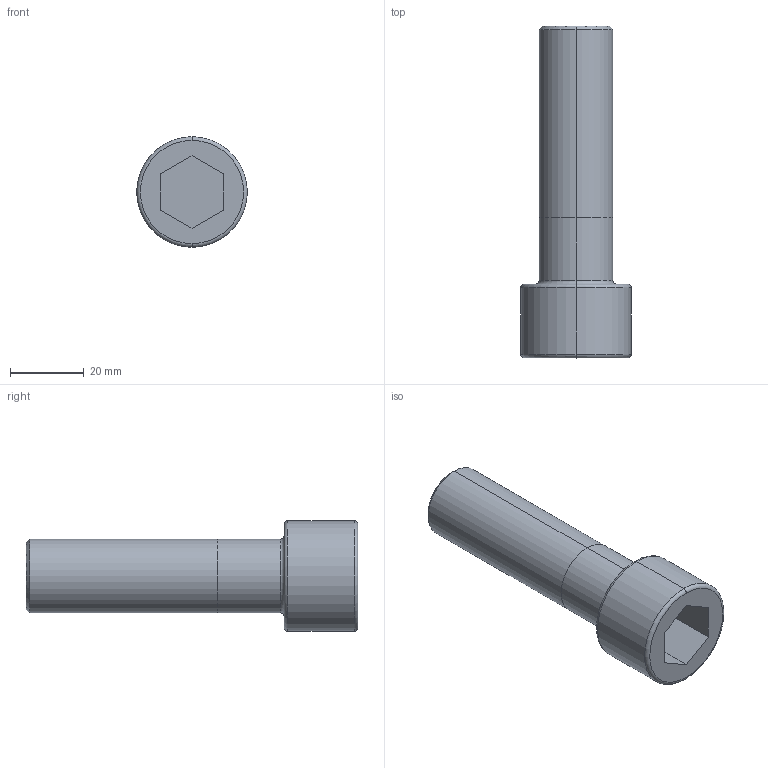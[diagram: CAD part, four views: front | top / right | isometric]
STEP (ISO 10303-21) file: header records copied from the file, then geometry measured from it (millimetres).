
FILE_DESCRIPTION (( 'STEP AP214' ), '1' );
FILE_NAME ('M_20X070.STEP', '2016-03-08T17:59:34', ( '' ), ( '' ), 'SwSTEP 2.0', 'SolidWorks 2014', '' );
FILE_SCHEMA (( 'AUTOMOTIVE_DESIGN' ));
Length unit declared in the file: millimetre
Products named in the file (1): M_20X070
Bounding box: 30 x 90 x 30 mm (x, y, z)
Volume: 31817.7 mm3; surface area: 8551.7 mm2
Topology: 1 solids, 1 shells, 25 faces, 52 edges, 32 vertices
Faces by surface type: plane 11, torus 6, cylinder 6, cone 2
Entity records: 746 total; most frequent: DIRECTION 130, CARTESIAN_POINT 110, ORIENTED_EDGE 104, AXIS2_PLACEMENT_3D 52, EDGE_CURVE 52, VERTEX_POINT 32, EDGE_LOOP 28, CIRCLE 26
